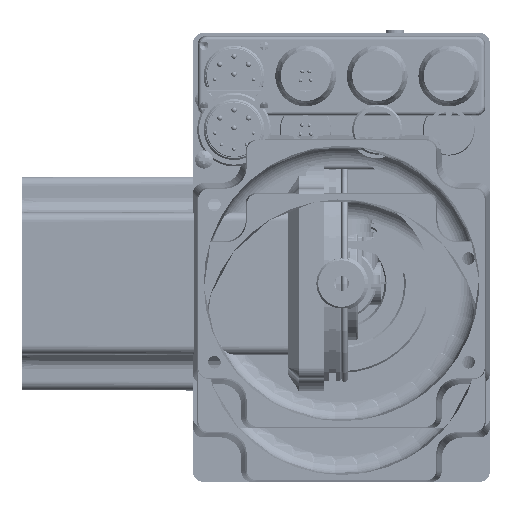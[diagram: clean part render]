
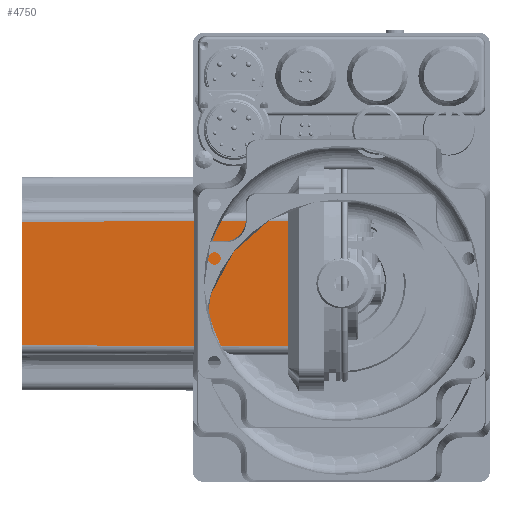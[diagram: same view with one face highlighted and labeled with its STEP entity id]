
A CAD part, front view. The second image highlights one B-rep face of the part: STEP entity #4750.
In plain terms, the highlighted planar face has unit normal (-0.003, -1, 0).
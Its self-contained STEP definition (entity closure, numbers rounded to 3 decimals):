
#4750 = ADVANCED_FACE( '', ( #9809 ), #9810, .T. );
#9809 = FACE_OUTER_BOUND( '', #25840, .T. );
#9810 = PLANE( '', #25841 );
#25840 = EDGE_LOOP( '', ( #36181, #36182, #36183, #36184 ) );
#25841 = AXIS2_PLACEMENT_3D( '', #36185, #36186, #36187 );
#36181 = ORIENTED_EDGE( '', *, *, #41966, .T. );
#36182 = ORIENTED_EDGE( '', *, *, #43096, .T. );
#36183 = ORIENTED_EDGE( '', *, *, #41241, .T. );
#36184 = ORIENTED_EDGE( '', *, *, #43097, .T. );
#36185 = CARTESIAN_POINT( '', ( -6., -30., 0. ) );
#36186 = DIRECTION( '', ( -0.003, -1., 0. ) );
#36187 = DIRECTION( '', ( 1., -0.003, 0. ) );
#41241 = EDGE_CURVE( '', #48300, #48301, #48302, .T. );
#41966 = EDGE_CURVE( '', #49371, #49369, #49372, .T. );
#43096 = EDGE_CURVE( '', #49369, #48300, #50832, .T. );
#43097 = EDGE_CURVE( '', #48301, #49371, #50833, .T. );
#48300 = VERTEX_POINT( '', #67977 );
#48301 = VERTEX_POINT( '', #67978 );
#48302 = LINE( '', #67979, #67980 );
#49369 = VERTEX_POINT( '', #70210 );
#49371 = VERTEX_POINT( '', #70212 );
#49372 = LINE( '', #70213, #70214 );
#50832 = LINE( '', #72542, #72543 );
#50833 = LINE( '', #72544, #72545 );
#67977 = CARTESIAN_POINT( '', ( -6.75, -29.998, 17.498 ) );
#67978 = CARTESIAN_POINT( '', ( -89.25, -29.758, 17.258 ) );
#67979 = CARTESIAN_POINT( '', ( -89.993, -29.756, 17.256 ) );
#67980 = VECTOR( '', #78513, 1000. );
#70210 = CARTESIAN_POINT( '', ( -6.75, -29.998, -17.498 ) );
#70212 = CARTESIAN_POINT( '', ( -89.25, -29.758, -17.258 ) );
#70213 = CARTESIAN_POINT( '', ( -5.993, -30., -17.5 ) );
#70214 = VECTOR( '', #79498, 1000. );
#72542 = CARTESIAN_POINT( '', ( -6.75, -29.998, 0. ) );
#72543 = VECTOR( '', #80585, 1000. );
#72544 = CARTESIAN_POINT( '', ( -89.25, -29.758, 0. ) );
#72545 = VECTOR( '', #80586, 1000. );
#78513 = DIRECTION( '', ( -1., 0.003, -0.003 ) );
#79498 = DIRECTION( '', ( 1., -0.003, -0.003 ) );
#80585 = DIRECTION( '', ( 0., 0., 1. ) );
#80586 = DIRECTION( '', ( 0., 0., -1. ) );
